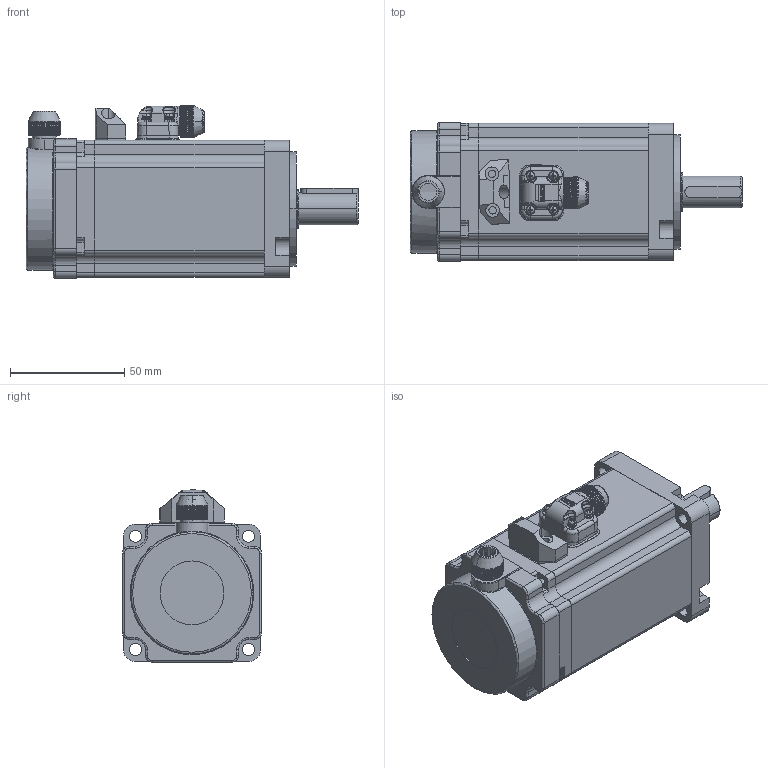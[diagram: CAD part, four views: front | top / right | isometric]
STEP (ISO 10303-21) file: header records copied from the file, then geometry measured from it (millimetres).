
FILE_DESCRIPTION((''),'2;1');
FILE_NAME('VMQUM06020B30C_B510_ASM','2020-08-12T',('PCBD'),(''),'PRO/ENGINEER BY PARAMETRIC TECHNOLOGY CORPORATION, 2010280','PRO/ENGINEER BY PARAMETRIC TECHNOLOGY CORPORATION, 2010280','');
FILE_SCHEMA(('CONFIG_CONTROL_DESIGN'));
Products named in the file (31): PRT0028; PRT0029; PRT0030; PRT0031; PRT0032; PRT0033; PRT0034; PRT0035; PRT0036; PRT0037; PRT0038; PRT0039; PRT0040; PRT0041; PRT0042; ASM0006_ASM_ASM; PRT0043; PRT0044; PRT0045; PRT0046; ASM0005_ASM_ASM; PRT0047; PRT0048; PRT0049; ASM0008_ASM_ASM; ASM0007_ASM_ASM; ASM0004_ASM_ASM; PRT0050; ASM0003_ASM_ASM; KEY060; VMQUM06020B30C_B510_ASM
Assembly tree (51 placements, depth 6):
  VMQUM06020B30C_B510_ASM
    ASM0003_ASM_ASM
      ASM0004_ASM_ASM
        PRT0028
        PRT0029
        PRT0030
        PRT0031
        ASM0005_ASM_ASM
          PRT0032
          PRT0033
          PRT0034
          PRT0035
          PRT0036
          PRT0037
          PRT0038
          PRT0039  x4
          ASM0006_ASM_ASM  x4
            PRT0040
            PRT0041
            PRT0042
          PRT0043
          PRT0044
          PRT0045  x8
          PRT0046  x9
        PRT0047
        ASM0007_ASM_ASM
          ASM0008_ASM_ASM
            PRT0048
            PRT0049
      PRT0050
    KEY060
Bounding box: 145.3 x 60.8 x 75.6 mm (x, y, z)
Volume: 146572.2 mm3; surface area: 94887.4 mm2
Topology: 51 solids, 51 shells, 6130 faces, 15183 edges, 9043 vertices
Faces by surface type: plane 3245, cylinder 1178, bspline 937, cone 436, sphere 156, torus 135, extrusion 34, revolution 9
Entity records: 143005 total; most frequent: CARTESIAN_POINT 54828, ORIENTED_EDGE 19158, DIRECTION 16717, EDGE_CURVE 9579, VERTEX_POINT 5954, VECTOR 5890, LINE 5870, AXIS2_PLACEMENT_3D 5413
